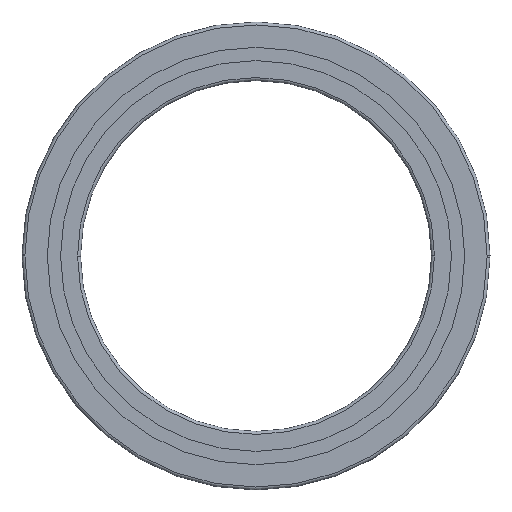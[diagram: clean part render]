
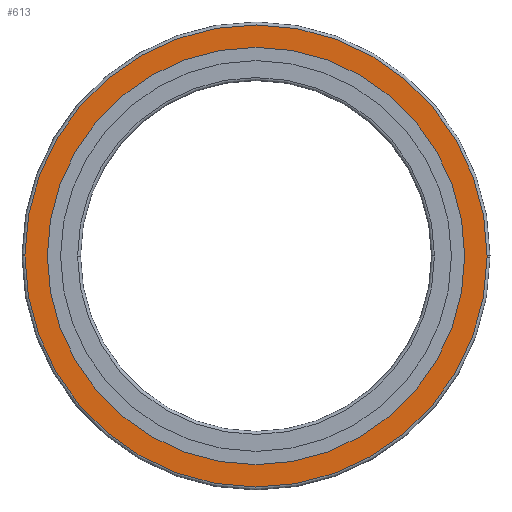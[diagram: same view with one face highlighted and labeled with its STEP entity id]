
A CAD part, front view. The second image highlights one B-rep face of the part: STEP entity #613.
In plain terms, the highlighted planar face has unit normal (0, -1, 0).
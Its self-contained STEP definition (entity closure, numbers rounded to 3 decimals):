
#375=EDGE_CURVE('',#431,#717,#918,.T.);
#393=EDGE_CURVE('',#705,#431,#937,.T.);
#431=VERTEX_POINT('',#981);
#447=VERTEX_POINT('',#998);
#539=EDGE_CURVE('',#447,#589,#1098,.T.);
#589=VERTEX_POINT('',#1158);
#613=ADVANCED_FACE('',(#1182,#1183),#1184,.F.);
#633=EDGE_CURVE('',#797,#705,#1206,.T.);
#667=EDGE_CURVE('',#589,#447,#1247,.T.);
#705=VERTEX_POINT('',#1292);
#717=VERTEX_POINT('',#1304);
#791=EDGE_CURVE('',#717,#797,#1389,.T.);
#797=VERTEX_POINT('',#1396);
#918=CIRCLE('',#1540,118.5);
#937=CIRCLE('',#1564,118.5);
#981=CARTESIAN_POINT('',(-118.5,0.0,0.));
#998=CARTESIAN_POINT('',(107.0,0.0,0.));
#1098=CIRCLE('',#1766,107.0);
#1158=CARTESIAN_POINT('',(-107.0,0.0,0.0));
#1182=FACE_OUTER_BOUND('',#1867,.T.);
#1183=FACE_BOUND('',#1868,.T.);
#1184=PLANE('',#1869);
#1206=CIRCLE('',#1897,118.5);
#1247=CIRCLE('',#1946,107.0);
#1292=CARTESIAN_POINT('',(-118.498,0.0,0.734));
#1304=CARTESIAN_POINT('',(118.498,0.0,-0.734));
#1389=CIRCLE('',#2115,118.5);
#1396=CARTESIAN_POINT('',(118.5,0.0,0.0));
#1540=AXIS2_PLACEMENT_3D('',#2251,#2252,#2253);
#1564=AXIS2_PLACEMENT_3D('',#2274,#2275,#2276);
#1766=AXIS2_PLACEMENT_3D('',#2486,#2487,#2488);
#1867=EDGE_LOOP('',(#2597,#2598,#2599,#2600));
#1868=EDGE_LOOP('',(#2601,#2602));
#1869=AXIS2_PLACEMENT_3D('',#2603,#2604,#2605);
#1897=AXIS2_PLACEMENT_3D('',#2629,#2630,#2631);
#1946=AXIS2_PLACEMENT_3D('',#2690,#2691,#2692);
#2115=AXIS2_PLACEMENT_3D('',#2891,#2892,#2893);
#2251=CARTESIAN_POINT('',(0.0,0.0,0.0));
#2252=DIRECTION('',(0.0,-1.0,0.0));
#2253=DIRECTION('',(-1.0,0.0,0.0));
#2274=CARTESIAN_POINT('',(0.0,0.0,0.0));
#2275=DIRECTION('',(0.0,-1.0,0.0));
#2276=DIRECTION('',(1.0,0.0,0.0));
#2486=CARTESIAN_POINT('',(0.0,0.0,0.0));
#2487=DIRECTION('',(0.0,-1.0,0.0));
#2488=DIRECTION('',(1.0,0.0,0.0));
#2597=ORIENTED_EDGE('',*,*,#375,.T.);
#2598=ORIENTED_EDGE('',*,*,#791,.T.);
#2599=ORIENTED_EDGE('',*,*,#633,.T.);
#2600=ORIENTED_EDGE('',*,*,#393,.T.);
#2601=ORIENTED_EDGE('',*,*,#667,.F.);
#2602=ORIENTED_EDGE('',*,*,#539,.F.);
#2603=CARTESIAN_POINT('',(0.0,0.0,0.0));
#2604=DIRECTION('',(0.0,1.0,0.0));
#2605=DIRECTION('',(1.0,0.0,-0.0));
#2629=CARTESIAN_POINT('',(0.0,0.0,0.0));
#2630=DIRECTION('',(0.0,-1.0,0.0));
#2631=DIRECTION('',(1.0,0.0,0.0));
#2690=CARTESIAN_POINT('',(0.0,0.0,0.0));
#2691=DIRECTION('',(0.0,-1.0,0.0));
#2692=DIRECTION('',(-1.0,0.0,0.0));
#2891=CARTESIAN_POINT('',(0.0,0.0,0.0));
#2892=DIRECTION('',(0.0,-1.0,0.0));
#2893=DIRECTION('',(-1.0,0.0,0.0));
